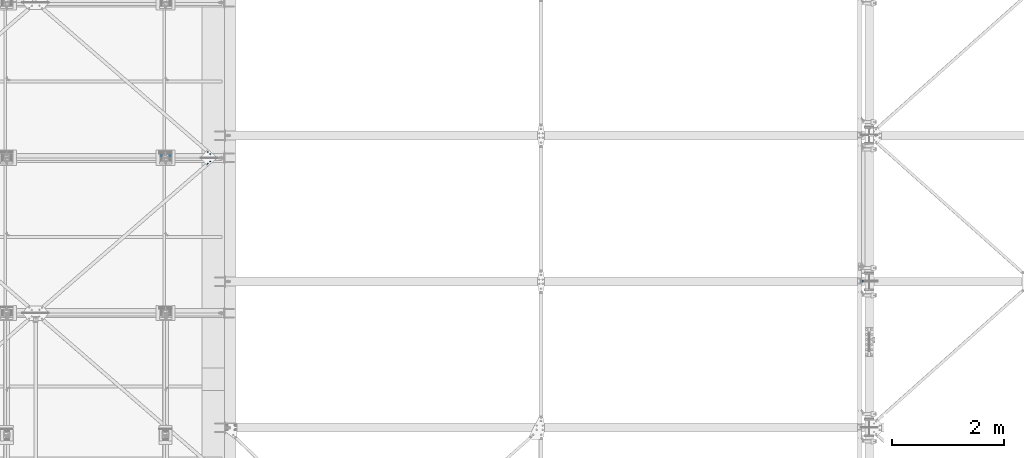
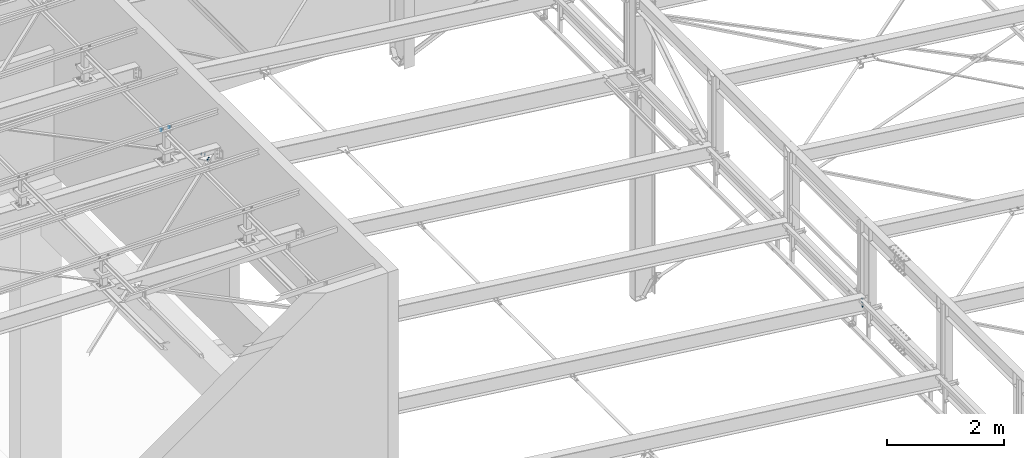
# One storey, part 274 of 3134: 4 mechanical fasteners, 3 elements without a shape of their own.
"""IFC2X3 building model written with IfcOpenShell, lengths in millimetres."""

from ifc_helpers import new_model, si_unit, frame, origin_with_axes, place, context, subcontext, project, spatial, faceted_brep, source, transform, mapped, material, type_object, element, aggregate, save


model = new_model("IFC2X3")

# Units and contexts
model_context = context("Model", 3, precision=1e-05, world=origin_with_axes())
body_context = subcontext(model_context, "Body", "Model", "MODEL_VIEW")
ifc_project = project(units=[si_unit("LENGTHUNIT", "METRE", prefix="MILLI"), si_unit("AREAUNIT", "SQUARE_METRE"), si_unit("VOLUMEUNIT", "CUBIC_METRE"), si_unit("MASSUNIT", "GRAM", prefix="KILO"), si_unit("TIMEUNIT", "SECOND"), si_unit("PLANEANGLEUNIT", "RADIAN"), si_unit("SOLIDANGLEUNIT", "STERADIAN"), si_unit("THERMODYNAMICTEMPERATUREUNIT", "DEGREE_CELSIUS"), si_unit("LUMINOUSINTENSITYUNIT", "LUMEN")], contexts=[model_context])

# Site, building, storey
site_placement = place(None, origin_with_axes())
site = spatial("IfcSite", under=ifc_project, at=site_placement, CompositionType="ELEMENT")
building_placement = place(site_placement, origin_with_axes())
building = spatial("IfcBuilding", under=site, at=building_placement, Name="Undefined", CompositionType="ELEMENT")
storey_placement = place(building_placement, origin_with_axes())
storey = spatial("IfcBuildingStorey", under=building, at=storey_placement, Name="Undefined", CompositionType="ELEMENT", Elevation=0.0)

# Assembly, mechanical fastener
assembly_1_placement = place(storey_placement, origin_with_axes())
assembly_1 = element("IfcElementAssembly", 1, at=assembly_1_placement, inside=storey, Name="IPE330", AssemblyPlace="NOTDEFINED", PredefinedType="RIGID_FRAME")
ifc_material = material(Name="8.8")
mechanical_fastener_type = type_object("IfcMechanicalFastenerType", Name="Bolt assembly")
shared_shape_1 = source(origin_with_axes(), body_context, "Body", "Brep", [
    faceted_brep([(13.856406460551, -13.75, 0.0), (6.92820323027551, -13.75, 12.0), (-6.92820323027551, -13.75, 12.0), (-13.856406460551, -13.75, 1.69692038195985e-15), (-6.92820323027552, -13.75, -12.0), (6.9282032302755, -13.75, -12.0), (6.9282032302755, -3.75, -12.0), (-6.92820323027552, -3.75, -12.0), (-13.856406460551, -3.75, 1.69692038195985e-15), (-6.92820323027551, -3.75, 12.0), (6.92820323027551, -3.75, 12.0), (13.856406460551, -3.75, 0.0), (8.0, -3.75, 0.0), (6.92820323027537, -3.75, 4.00000000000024), (3.99999999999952, -3.75, 6.92820323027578), (-8.29068785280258e-13, -3.75, 8.0), (-4.00000000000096, -3.75, 6.92820323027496), (-6.9282032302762, -3.75, 3.99999999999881), (-8.0, -3.75, -1.65813757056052e-12), (-6.92820323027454, -3.75, -4.00000000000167), (-3.99999999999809, -3.75, -6.92820323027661), (2.47832457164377e-12, -3.75, -8.0), (4.00000000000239, -3.75, -6.92820323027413), (6.92820323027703, -3.75, -3.99999999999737), (6.92820323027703, 31.25, -3.99999999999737), (4.00000000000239, 31.25, -6.92820323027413), (2.47832457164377e-12, 31.25, -8.0), (-3.99999999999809, 31.25, -6.92820323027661), (-6.92820323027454, 31.25, -4.00000000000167), (-8.0, 31.25, -1.65813757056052e-12), (-6.9282032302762, 31.25, 3.99999999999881), (-4.00000000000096, 31.25, 6.92820323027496), (-8.29068785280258e-13, 31.25, 8.0), (3.99999999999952, 31.25, 6.92820323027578), (6.92820323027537, 31.25, 4.00000000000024), (8.0, 31.25, 0.0), (13.856406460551, 13.0500000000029, 0.0), (6.92820323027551, 13.0500000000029, 12.0), (-6.92820323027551, 13.0500000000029, 12.0), (-13.856406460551, 13.0500000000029, 1.69692038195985e-15), (-6.92820323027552, 13.0500000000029, -12.0), (6.9282032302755, 13.0500000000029, -12.0), (6.9282032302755, 26.0500000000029, -12.0), (-6.92820323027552, 26.0500000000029, -12.0), (-13.856406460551, 26.0500000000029, 1.69692038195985e-15), (-6.92820323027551, 26.0500000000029, 12.0), (6.92820323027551, 26.0500000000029, 12.0), (13.856406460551, 26.0500000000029, 0.0)], [[[0, 1, 2, 3, 4, 5]], [[6, 7, 8, 9, 10, 11]], [[0, 11, 10, 1]], [[1, 10, 9, 2]], [[2, 9, 8, 3]], [[3, 8, 7, 4]], [[4, 7, 6, 5]], [[5, 6, 11, 0]], [[12, 13, 14, 15, 16, 17, 18, 19, 20, 21, 22, 23]], [[24, 25, 26, 27, 28, 29, 30, 31, 32, 33, 34, 35]], [[12, 35, 34, 13]], [[13, 34, 33, 14]], [[14, 33, 32, 15]], [[15, 32, 31, 16]], [[16, 31, 30, 17]], [[17, 30, 29, 18]], [[18, 29, 28, 19]], [[19, 28, 27, 20]], [[20, 27, 26, 21]], [[21, 26, 25, 22]], [[22, 25, 24, 23]], [[23, 24, 35, 12]], [[36, 37, 38, 39, 40, 41]], [[42, 43, 44, 45, 46, 47]], [[36, 47, 46, 37]], [[37, 46, 45, 38]], [[38, 45, 44, 39]], [[39, 44, 43, 40]], [[40, 43, 42, 41]], [[41, 42, 47, 36]]]),
    faceted_brep([(9.0, 2.95000000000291, 0.0), (7.79422863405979, 2.95000000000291, 4.50000000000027), (4.49999999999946, 2.95000000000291, 7.79422863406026), (-9.3270238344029e-13, 2.95000000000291, 9.0), (-4.50000000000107, 2.95000000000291, 7.79422863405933), (-7.79422863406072, 2.95000000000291, 4.49999999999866), (-9.0, 2.95000000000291, -1.86540476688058e-12), (-7.79422863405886, 2.95000000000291, -4.50000000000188), (-4.49999999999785, 2.95000000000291, -7.79422863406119), (2.78811514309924e-12, 2.95000000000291, -9.0), (4.50000000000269, 2.95000000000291, -7.7942286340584), (7.79422863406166, 2.95000000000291, -4.49999999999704), (7.79422863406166, 13.0500000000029, -4.49999999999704), (4.50000000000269, 13.0500000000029, -7.7942286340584), (2.78811514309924e-12, 13.0500000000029, -9.0), (-4.49999999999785, 13.0500000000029, -7.79422863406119), (-7.79422863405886, 13.0500000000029, -4.50000000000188), (-9.0, 13.0500000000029, -1.86540476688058e-12), (-7.79422863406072, 13.0500000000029, 4.49999999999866), (-4.50000000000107, 13.0500000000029, 7.79422863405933), (-9.3270238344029e-13, 13.0500000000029, 9.0), (4.49999999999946, 13.0500000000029, 7.79422863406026), (7.79422863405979, 13.0500000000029, 4.50000000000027), (9.0, 13.0500000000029, 0.0), (9.0, -3.65, 0.0), (7.79422863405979, -3.65, 4.50000000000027), (4.49999999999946, -3.65, 7.79422863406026), (-9.3270238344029e-13, -3.65, 9.0), (-4.50000000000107, -3.65, 7.79422863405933), (-7.79422863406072, -3.65, 4.49999999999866), (-9.0, -3.65, -1.86540476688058e-12), (-7.79422863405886, -3.65, -4.50000000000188), (-4.49999999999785, -3.65, -7.79422863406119), (2.78811514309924e-12, -3.65, -9.0), (4.50000000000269, -3.65, -7.7942286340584), (7.79422863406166, -3.65, -4.49999999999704), (7.79422863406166, 3.85, -4.49999999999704), (4.50000000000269, 3.85, -7.7942286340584), (2.78811514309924e-12, 3.85, -9.0), (-4.49999999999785, 3.85, -7.79422863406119), (-7.79422863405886, 3.85, -4.50000000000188), (-9.0, 3.85, -1.86540476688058e-12), (-7.79422863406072, 3.85, 4.49999999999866), (-4.50000000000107, 3.85, 7.79422863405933), (-9.3270238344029e-13, 3.85, 9.0), (4.49999999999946, 3.85, 7.79422863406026), (7.79422863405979, 3.85, 4.50000000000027), (9.0, 3.85, 0.0)], [[[0, 1, 2, 3, 4, 5, 6, 7, 8, 9, 10, 11]], [[12, 13, 14, 15, 16, 17, 18, 19, 20, 21, 22, 23]], [[0, 23, 22, 1]], [[1, 22, 21, 2]], [[2, 21, 20, 3]], [[3, 20, 19, 4]], [[4, 19, 18, 5]], [[5, 18, 17, 6]], [[6, 17, 16, 7]], [[7, 16, 15, 8]], [[8, 15, 14, 9]], [[9, 14, 13, 10]], [[10, 13, 12, 11]], [[11, 12, 23, 0]], [[24, 25, 26, 27, 28, 29, 30, 31, 32, 33, 34, 35]], [[36, 37, 38, 39, 40, 41, 42, 43, 44, 45, 46, 47]], [[24, 47, 46, 25]], [[25, 46, 45, 26]], [[26, 45, 44, 27]], [[27, 44, 43, 28]], [[28, 43, 42, 29]], [[29, 42, 41, 30]], [[30, 41, 40, 31]], [[31, 40, 39, 32]], [[32, 39, 38, 33]], [[33, 38, 37, 34]], [[34, 37, 36, 35]], [[35, 36, 47, 24]]]),
])
mechanical_fastener_1_placement = place(assembly_1_placement, frame((44085.0, 53250.0, 4337.44269270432), z_axis=(1.0, 0.0, 0.0), x_axis=(0.0, 0.0, -1.0)))
mechanical_fastener_1 = element("IfcMechanicalFastener", 2, at=mechanical_fastener_1_placement, type_object=mechanical_fastener_type, material=ifc_material, Name="Bolt assembly", NominalDiameter=16.0, NominalLength=35.0, context=body_context, shape_type="MappedRepresentation", body=[
    mapped(shared_shape_1, transform((0.0, 0.0, 0.0))),
    mapped(shared_shape_1, transform((80.0, 0.0, 0.0))),
    mapped(shared_shape_1, transform((160.0, 0.0, 0.0))),
])
aggregate(assembly_1, [mechanical_fastener_1])

assembly_2_placement = place(storey_placement, origin_with_axes())
assembly_2 = element("IfcElementAssembly", 3, at=assembly_2_placement, inside=storey, AssemblyPlace="NOTDEFINED", PredefinedType="RIGID_FRAME")
shared_shape_2 = source(origin_with_axes(), body_context, "Body", "Brep", [
    faceted_brep([(10.9696551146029, -14.0, 0.0), (5.48482755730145, -14.0, 9.5), (-5.48482755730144, -14.0, 9.5), (-10.9696551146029, -14.0, 1.34339530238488e-15), (-5.48482755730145, -14.0, -9.5), (5.48482755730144, -14.0, -9.50000000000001), (5.48482755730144, -6.0, -9.50000000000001), (-5.48482755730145, -6.0, -9.5), (-10.9696551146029, -6.0, 1.34339530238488e-15), (-5.48482755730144, -6.0, 9.5), (5.48482755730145, -6.0, 9.5), (10.9696551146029, -6.0, 0.0), (6.0, -6.0, 0.0), (5.19615242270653, -6.0, 3.00000000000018), (2.99999999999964, -6.0, 5.19615242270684), (-6.21801588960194e-13, -6.0, 6.0), (-3.00000000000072, -6.0, 5.19615242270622), (-5.19615242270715, -6.0, 2.9999999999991), (-6.0, -6.0, -1.24360317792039e-12), (-5.19615242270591, -6.0, -3.00000000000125), (-2.99999999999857, -6.0, -5.19615242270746), (1.85874342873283e-12, -6.0, -6.0), (3.00000000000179, -6.0, -5.1961524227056), (5.19615242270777, -6.0, -2.99999999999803), (5.19615242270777, 24.0, -2.99999999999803), (3.00000000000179, 24.0, -5.1961524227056), (1.85874342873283e-12, 24.0, -6.0), (-2.99999999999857, 24.0, -5.19615242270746), (-5.19615242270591, 24.0, -3.00000000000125), (-6.0, 24.0, -1.24360317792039e-12), (-5.19615242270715, 24.0, 2.9999999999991), (-3.00000000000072, 24.0, 5.19615242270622), (-6.21801588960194e-13, 24.0, 6.0), (2.99999999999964, 24.0, 5.19615242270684), (5.19615242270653, 24.0, 3.00000000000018), (6.0, 24.0, 0.0), (10.9696551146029, 6.00000000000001, 0.0), (5.48482755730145, 6.00000000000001, 9.5), (-5.48482755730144, 6.00000000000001, 9.5), (-10.9696551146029, 6.00000000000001, 1.34339530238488e-15), (-5.48482755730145, 6.00000000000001, -9.5), (5.48482755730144, 6.00000000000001, -9.50000000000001), (5.48482755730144, 16.0, -9.50000000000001), (-5.48482755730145, 16.0, -9.5), (-10.9696551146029, 16.0, 1.34339530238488e-15), (-5.48482755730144, 16.0, 9.5), (5.48482755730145, 16.0, 9.5), (10.9696551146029, 16.0, 0.0)], [[[0, 1, 2, 3, 4, 5]], [[6, 7, 8, 9, 10, 11]], [[0, 11, 10, 1]], [[1, 10, 9, 2]], [[2, 9, 8, 3]], [[3, 8, 7, 4]], [[4, 7, 6, 5]], [[5, 6, 11, 0]], [[12, 13, 14, 15, 16, 17, 18, 19, 20, 21, 22, 23]], [[24, 25, 26, 27, 28, 29, 30, 31, 32, 33, 34, 35]], [[12, 35, 34, 13]], [[13, 34, 33, 14]], [[14, 33, 32, 15]], [[15, 32, 31, 16]], [[16, 31, 30, 17]], [[17, 30, 29, 18]], [[18, 29, 28, 19]], [[19, 28, 27, 20]], [[20, 27, 26, 21]], [[21, 26, 25, 22]], [[22, 25, 24, 23]], [[23, 24, 35, 12]], [[36, 37, 38, 39, 40, 41]], [[42, 43, 44, 45, 46, 47]], [[36, 47, 46, 37]], [[37, 46, 45, 38]], [[38, 45, 44, 39]], [[39, 44, 43, 40]], [[40, 43, 42, 41]], [[41, 42, 47, 36]]]),
    faceted_brep([(7.0, -0.1, 0.0), (6.06217782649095, -0.1, 3.50000000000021), (3.49999999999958, -0.1, 6.06217782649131), (-7.25435187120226e-13, -0.1, 7.0), (-3.50000000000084, -0.1, 6.06217782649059), (-6.06217782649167, -0.1, 3.49999999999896), (-7.0, -0.1, -1.45087037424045e-12), (-6.06217782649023, -0.1, -3.50000000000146), (-3.49999999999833, -0.1, -6.06217782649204), (2.1685340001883e-12, -0.1, -7.0), (3.50000000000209, -0.1, -6.06217782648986), (6.0621778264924, -0.1, -3.4999999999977), (6.0621778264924, 6.00000000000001, -3.4999999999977), (3.50000000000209, 6.00000000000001, -6.06217782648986), (2.1685340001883e-12, 6.00000000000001, -7.0), (-3.49999999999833, 6.00000000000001, -6.06217782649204), (-6.06217782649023, 6.00000000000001, -3.50000000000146), (-7.0, 6.00000000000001, -1.45087037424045e-12), (-6.06217782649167, 6.00000000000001, 3.49999999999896), (-3.50000000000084, 6.00000000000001, 6.06217782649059), (-7.25435187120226e-13, 6.00000000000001, 7.0), (3.49999999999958, 6.00000000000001, 6.06217782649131), (6.06217782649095, 6.00000000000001, 3.50000000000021), (7.0, 6.00000000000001, 0.0), (7.0, -5.9, 0.0), (6.06217782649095, -5.9, 3.50000000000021), (3.49999999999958, -5.9, 6.06217782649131), (-7.25435187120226e-13, -5.9, 7.0), (-3.50000000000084, -5.9, 6.06217782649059), (-6.06217782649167, -5.9, 3.49999999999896), (-7.0, -5.9, -1.45087037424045e-12), (-6.06217782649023, -5.9, -3.50000000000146), (-3.49999999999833, -5.9, -6.06217782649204), (2.1685340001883e-12, -5.9, -7.0), (3.50000000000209, -5.9, -6.06217782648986), (6.0621778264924, -5.9, -3.4999999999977), (6.0621778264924, 0.0999999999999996, -3.4999999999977), (3.50000000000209, 0.0999999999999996, -6.06217782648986), (2.1685340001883e-12, 0.0999999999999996, -7.0), (-3.49999999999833, 0.0999999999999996, -6.06217782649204), (-6.06217782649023, 0.0999999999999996, -3.50000000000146), (-7.0, 0.0999999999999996, -1.45087037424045e-12), (-6.06217782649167, 0.0999999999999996, 3.49999999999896), (-3.50000000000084, 0.0999999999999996, 6.06217782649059), (-7.25435187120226e-13, 0.0999999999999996, 7.0), (3.49999999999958, 0.0999999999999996, 6.06217782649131), (6.06217782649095, 0.0999999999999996, 3.50000000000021), (7.0, 0.0999999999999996, 0.0)], [[[0, 1, 2, 3, 4, 5, 6, 7, 8, 9, 10, 11]], [[12, 13, 14, 15, 16, 17, 18, 19, 20, 21, 22, 23]], [[0, 23, 22, 1]], [[1, 22, 21, 2]], [[2, 21, 20, 3]], [[3, 20, 19, 4]], [[4, 19, 18, 5]], [[5, 18, 17, 6]], [[6, 17, 16, 7]], [[7, 16, 15, 8]], [[8, 15, 14, 9]], [[9, 14, 13, 10]], [[10, 13, 12, 11]], [[11, 12, 23, 0]], [[24, 25, 26, 27, 28, 29, 30, 31, 32, 33, 34, 35]], [[36, 37, 38, 39, 40, 41, 42, 43, 44, 45, 46, 47]], [[24, 47, 46, 25]], [[25, 46, 45, 26]], [[26, 45, 44, 27]], [[27, 44, 43, 28]], [[28, 43, 42, 29]], [[29, 42, 41, 30]], [[30, 41, 40, 31]], [[31, 40, 39, 32]], [[32, 39, 38, 33]], [[33, 38, 37, 34]], [[34, 37, 36, 35]], [[35, 36, 47, 24]]]),
])
mechanical_fastener_2_placement = place(assembly_2_placement, frame((31675.0, 55490.0, 10865.0), z_axis=(1.0, 0.0, 0.0), x_axis=(0.0, -1.0, 0.0)))
mechanical_fastener_2 = element("IfcMechanicalFastener", 4, at=mechanical_fastener_2_placement, type_object=mechanical_fastener_type, material=ifc_material, Name="Bolt assembly", NominalDiameter=12.0, NominalLength=30.0, context=body_context, shape_type="MappedRepresentation", body=[
    mapped(shared_shape_2, transform((0.0, -5.32963895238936e-10, -79.9999999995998))),
    mapped(shared_shape_2, transform((0.0, 5.3114490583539e-10, 79.9999999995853))),
])
aggregate(assembly_2, [mechanical_fastener_2])

# Assembly, mechanical fasteners
assembly_3_placement = place(storey_placement, origin_with_axes())
assembly_3 = element("IfcElementAssembly", 5, at=assembly_3_placement, inside=storey, Name="IPE330", AssemblyPlace="NOTDEFINED", PredefinedType="RIGID_FRAME")
shared_shape_3 = source(origin_with_axes(), body_context, "Body", "Brep", [
    faceted_brep([(13.856406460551, -14.0, 0.0), (6.92820323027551, -14.0, 12.0), (-6.92820323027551, -14.0, 12.0), (-13.856406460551, -14.0, 1.69692038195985e-15), (-6.92820323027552, -14.0, -12.0), (6.9282032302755, -14.0, -12.0), (6.9282032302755, -4.00000145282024, -12.0), (-6.92820323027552, -4.00000145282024, -12.0), (-13.856406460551, -4.00000145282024, 1.69692038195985e-15), (-6.92820323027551, -4.00000145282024, 12.0), (6.92820323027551, -4.00000145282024, 12.0), (13.856406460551, -4.00000145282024, 0.0), (8.0, -4.00000145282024, 0.0), (6.92820323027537, -4.00000145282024, 4.00000000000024), (3.99999999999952, -4.00000145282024, 6.92820323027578), (-8.29068785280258e-13, -4.00000145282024, 8.0), (-4.00000000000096, -4.00000145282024, 6.92820323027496), (-6.9282032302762, -4.00000145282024, 3.99999999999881), (-8.0, -4.00000145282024, -1.65813757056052e-12), (-6.92820323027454, -4.00000145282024, -4.00000000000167), (-3.99999999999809, -4.00000145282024, -6.92820323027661), (2.47832457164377e-12, -4.00000145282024, -8.0), (4.00000000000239, -4.00000145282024, -6.92820323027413), (6.92820323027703, -4.00000145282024, -3.99999999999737), (6.92820323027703, 31.0, -3.99999999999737), (4.00000000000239, 31.0, -6.92820323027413), (2.47832457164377e-12, 31.0, -8.0), (-3.99999999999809, 31.0, -6.92820323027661), (-6.92820323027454, 31.0, -4.00000000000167), (-8.0, 31.0, -1.65813757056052e-12), (-6.9282032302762, 31.0, 3.99999999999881), (-4.00000000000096, 31.0, 6.92820323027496), (-8.29068785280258e-13, 31.0, 8.0), (3.99999999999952, 31.0, 6.92820323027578), (6.92820323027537, 31.0, 4.00000000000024), (8.0, 31.0, 0.0), (13.856406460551, 9.99999995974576, 0.0), (6.92820323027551, 9.99999995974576, 12.0), (-6.92820323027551, 9.99999995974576, 12.0), (-13.856406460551, 9.99999995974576, 1.69692038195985e-15), (-6.92820323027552, 9.99999995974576, -12.0), (6.9282032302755, 9.99999995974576, -12.0), (6.9282032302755, 22.9999913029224, -12.0), (-6.92820323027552, 22.9999913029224, -12.0), (-13.856406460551, 22.9999913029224, 1.69692038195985e-15), (-6.92820323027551, 22.9999913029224, 12.0), (6.92820323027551, 22.9999913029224, 12.0), (13.856406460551, 22.9999913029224, 0.0)], [[[0, 1, 2, 3, 4, 5]], [[6, 7, 8, 9, 10, 11]], [[0, 11, 10, 1]], [[1, 10, 9, 2]], [[2, 9, 8, 3]], [[3, 8, 7, 4]], [[4, 7, 6, 5]], [[5, 6, 11, 0]], [[12, 13, 14, 15, 16, 17, 18, 19, 20, 21, 22, 23]], [[24, 25, 26, 27, 28, 29, 30, 31, 32, 33, 34, 35]], [[12, 35, 34, 13]], [[13, 34, 33, 14]], [[14, 33, 32, 15]], [[15, 32, 31, 16]], [[16, 31, 30, 17]], [[17, 30, 29, 18]], [[18, 29, 28, 19]], [[19, 28, 27, 20]], [[20, 27, 26, 21]], [[21, 26, 25, 22]], [[22, 25, 24, 23]], [[23, 24, 35, 12]], [[36, 37, 38, 39, 40, 41]], [[42, 43, 44, 45, 46, 47]], [[36, 47, 46, 37]], [[37, 46, 45, 38]], [[38, 45, 44, 39]], [[39, 44, 43, 40]], [[40, 43, 42, 41]], [[41, 42, 47, 36]]]),
    faceted_brep([(9.0, 3.9, 0.0), (7.79422863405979, 3.9, 4.50000000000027), (4.49999999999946, 3.9, 7.79422863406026), (-9.3270238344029e-13, 3.9, 9.0), (-4.50000000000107, 3.9, 7.79422863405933), (-7.79422863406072, 3.9, 4.49999999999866), (-9.0, 3.9, -1.86540476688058e-12), (-7.79422863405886, 3.9, -4.50000000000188), (-4.49999999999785, 3.9, -7.79422863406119), (2.78811514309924e-12, 3.9, -9.0), (4.50000000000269, 3.9, -7.7942286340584), (7.79422863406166, 3.9, -4.49999999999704), (7.79422863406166, 9.99999995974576, -4.49999999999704), (4.50000000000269, 9.99999995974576, -7.7942286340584), (2.78811514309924e-12, 9.99999995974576, -9.0), (-4.49999999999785, 9.99999995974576, -7.79422863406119), (-7.79422863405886, 9.99999995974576, -4.50000000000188), (-9.0, 9.99999995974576, -1.86540476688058e-12), (-7.79422863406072, 9.99999995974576, 4.49999999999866), (-4.50000000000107, 9.99999995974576, 7.79422863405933), (-9.3270238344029e-13, 9.99999995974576, 9.0), (4.49999999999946, 9.99999995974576, 7.79422863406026), (7.79422863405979, 9.99999995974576, 4.50000000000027), (9.0, 9.99999995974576, 0.0), (9.0, -3.9, 0.0), (7.79422863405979, -3.9, 4.50000000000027), (4.49999999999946, -3.9, 7.79422863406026), (-9.3270238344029e-13, -3.9, 9.0), (-4.50000000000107, -3.9, 7.79422863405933), (-7.79422863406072, -3.9, 4.49999999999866), (-9.0, -3.9, -1.86540476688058e-12), (-7.79422863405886, -3.9, -4.50000000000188), (-4.49999999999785, -3.9, -7.79422863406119), (2.78811514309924e-12, -3.9, -9.0), (4.50000000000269, -3.9, -7.7942286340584), (7.79422863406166, -3.9, -4.49999999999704), (7.79422863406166, 4.09999854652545, -4.49999999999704), (4.50000000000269, 4.09999854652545, -7.7942286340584), (2.78811514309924e-12, 4.09999854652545, -9.0), (-4.49999999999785, 4.09999854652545, -7.79422863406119), (-7.79422863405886, 4.09999854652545, -4.50000000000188), (-9.0, 4.09999854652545, -1.86540476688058e-12), (-7.79422863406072, 4.09999854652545, 4.49999999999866), (-4.50000000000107, 4.09999854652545, 7.79422863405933), (-9.3270238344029e-13, 4.09999854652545, 9.0), (4.49999999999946, 4.09999854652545, 7.79422863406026), (7.79422863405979, 4.09999854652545, 4.50000000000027), (9.0, 4.09999854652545, 0.0)], [[[0, 1, 2, 3, 4, 5, 6, 7, 8, 9, 10, 11]], [[12, 13, 14, 15, 16, 17, 18, 19, 20, 21, 22, 23]], [[0, 23, 22, 1]], [[1, 22, 21, 2]], [[2, 21, 20, 3]], [[3, 20, 19, 4]], [[4, 19, 18, 5]], [[5, 18, 17, 6]], [[6, 17, 16, 7]], [[7, 16, 15, 8]], [[8, 15, 14, 9]], [[9, 14, 13, 10]], [[10, 13, 12, 11]], [[11, 12, 23, 0]], [[24, 25, 26, 27, 28, 29, 30, 31, 32, 33, 34, 35]], [[36, 37, 38, 39, 40, 41, 42, 43, 44, 45, 46, 47]], [[24, 47, 46, 25]], [[25, 46, 45, 26]], [[26, 45, 44, 27]], [[27, 44, 43, 28]], [[28, 43, 42, 29]], [[29, 42, 41, 30]], [[30, 41, 40, 31]], [[31, 40, 39, 32]], [[32, 39, 38, 33]], [[33, 38, 37, 34]], [[34, 37, 36, 35]], [[35, 36, 47, 24]]]),
])
mechanical_fastener_3_placement = place(assembly_3_placement, frame((32424.2213762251, 55350.1149029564, 10033.8822758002), z_axis=(-0.655215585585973, 0.755168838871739, 0.0203116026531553), x_axis=(0.754806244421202, 0.655530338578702, -0.0233989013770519)))
mechanical_fastener_3 = element("IfcMechanicalFastener", 6, at=mechanical_fastener_3_placement, type_object=mechanical_fastener_type, material=ifc_material, Name="Bolt assembly", NominalDiameter=16.0, NominalLength=35.0, context=body_context, shape_type="MappedRepresentation", body=[
    mapped(shared_shape_3, transform((0.0, 0.0, 0.0))),
    mapped(shared_shape_3, transform((59.9999999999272, 0.0, 5.40239852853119e-10))),
])
shared_shape_4 = source(origin_with_axes(), body_context, "Body", "Brep", [
    faceted_brep([(13.856406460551, -14.0, 0.0), (6.92820323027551, -14.0, 12.0), (-6.92820323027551, -14.0, 12.0), (-13.856406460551, -14.0, 1.69692038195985e-15), (-6.92820323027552, -14.0, -12.0), (6.9282032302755, -14.0, -12.0), (6.9282032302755, -4.00000145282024, -12.0), (-6.92820323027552, -4.00000145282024, -12.0), (-13.856406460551, -4.00000145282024, 1.69692038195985e-15), (-6.92820323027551, -4.00000145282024, 12.0), (6.92820323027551, -4.00000145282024, 12.0), (13.856406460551, -4.00000145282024, 0.0), (8.0, -4.00000145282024, 0.0), (6.92820323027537, -4.00000145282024, 4.00000000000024), (3.99999999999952, -4.00000145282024, 6.92820323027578), (-8.29068785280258e-13, -4.00000145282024, 8.0), (-4.00000000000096, -4.00000145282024, 6.92820323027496), (-6.9282032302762, -4.00000145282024, 3.99999999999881), (-8.0, -4.00000145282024, -1.65813757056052e-12), (-6.92820323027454, -4.00000145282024, -4.00000000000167), (-3.99999999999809, -4.00000145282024, -6.92820323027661), (2.47832457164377e-12, -4.00000145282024, -8.0), (4.00000000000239, -4.00000145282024, -6.92820323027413), (6.92820323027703, -4.00000145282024, -3.99999999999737), (6.92820323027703, 31.0, -3.99999999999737), (4.00000000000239, 31.0, -6.92820323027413), (2.47832457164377e-12, 31.0, -8.0), (-3.99999999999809, 31.0, -6.92820323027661), (-6.92820323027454, 31.0, -4.00000000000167), (-8.0, 31.0, -1.65813757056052e-12), (-6.9282032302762, 31.0, 3.99999999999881), (-4.00000000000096, 31.0, 6.92820323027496), (-8.29068785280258e-13, 31.0, 8.0), (3.99999999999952, 31.0, 6.92820323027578), (6.92820323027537, 31.0, 4.00000000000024), (8.0, 31.0, 0.0), (13.856406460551, 9.99990751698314, 0.0), (6.92820323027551, 9.99990751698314, 12.0), (-6.92820323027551, 9.99990751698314, 12.0), (-13.856406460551, 9.99990751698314, 1.69692038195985e-15), (-6.92820323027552, 9.99990751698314, -12.0), (6.9282032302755, 9.99990751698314, -12.0), (6.9282032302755, 22.9999075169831, -12.0), (-6.92820323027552, 22.9999075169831, -12.0), (-13.856406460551, 22.9999075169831, 1.69692038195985e-15), (-6.92820323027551, 22.9999075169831, 12.0), (6.92820323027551, 22.9999075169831, 12.0), (13.856406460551, 22.9999075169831, 0.0)], [[[0, 1, 2, 3, 4, 5]], [[6, 7, 8, 9, 10, 11]], [[0, 11, 10, 1]], [[1, 10, 9, 2]], [[2, 9, 8, 3]], [[3, 8, 7, 4]], [[4, 7, 6, 5]], [[5, 6, 11, 0]], [[12, 13, 14, 15, 16, 17, 18, 19, 20, 21, 22, 23]], [[24, 25, 26, 27, 28, 29, 30, 31, 32, 33, 34, 35]], [[12, 35, 34, 13]], [[13, 34, 33, 14]], [[14, 33, 32, 15]], [[15, 32, 31, 16]], [[16, 31, 30, 17]], [[17, 30, 29, 18]], [[18, 29, 28, 19]], [[19, 28, 27, 20]], [[20, 27, 26, 21]], [[21, 26, 25, 22]], [[22, 25, 24, 23]], [[23, 24, 35, 12]], [[36, 37, 38, 39, 40, 41]], [[42, 43, 44, 45, 46, 47]], [[36, 47, 46, 37]], [[37, 46, 45, 38]], [[38, 45, 44, 39]], [[39, 44, 43, 40]], [[40, 43, 42, 41]], [[41, 42, 47, 36]]]),
    faceted_brep([(9.0, 3.89990751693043, 0.0), (7.79422863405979, 3.89990751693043, 4.50000000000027), (4.49999999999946, 3.89990751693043, 7.79422863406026), (-9.3270238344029e-13, 3.89990751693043, 9.0), (-4.50000000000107, 3.89990751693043, 7.79422863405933), (-7.79422863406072, 3.89990751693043, 4.49999999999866), (-9.0, 3.89990751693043, -1.86540476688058e-12), (-7.79422863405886, 3.89990751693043, -4.50000000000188), (-4.49999999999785, 3.89990751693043, -7.79422863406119), (2.78811514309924e-12, 3.89990751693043, -9.0), (4.50000000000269, 3.89990751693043, -7.7942286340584), (7.79422863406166, 3.89990751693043, -4.49999999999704), (7.79422863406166, 9.99990751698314, -4.49999999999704), (4.50000000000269, 9.99990751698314, -7.7942286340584), (2.78811514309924e-12, 9.99990751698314, -9.0), (-4.49999999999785, 9.99990751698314, -7.79422863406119), (-7.79422863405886, 9.99990751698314, -4.50000000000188), (-9.0, 9.99990751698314, -1.86540476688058e-12), (-7.79422863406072, 9.99990751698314, 4.49999999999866), (-4.50000000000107, 9.99990751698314, 7.79422863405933), (-9.3270238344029e-13, 9.99990751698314, 9.0), (4.49999999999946, 9.99990751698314, 7.79422863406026), (7.79422863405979, 9.99990751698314, 4.50000000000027), (9.0, 9.99990751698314, 0.0), (9.0, -3.9, 0.0), (7.79422863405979, -3.9, 4.50000000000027), (4.49999999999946, -3.9, 7.79422863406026), (-9.3270238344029e-13, -3.9, 9.0), (-4.50000000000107, -3.9, 7.79422863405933), (-7.79422863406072, -3.9, 4.49999999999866), (-9.0, -3.9, -1.86540476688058e-12), (-7.79422863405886, -3.9, -4.50000000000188), (-4.49999999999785, -3.9, -7.79422863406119), (2.78811514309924e-12, -3.9, -9.0), (4.50000000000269, -3.9, -7.7942286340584), (7.79422863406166, -3.9, -4.49999999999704), (7.79422863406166, 4.09999854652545, -4.49999999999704), (4.50000000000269, 4.09999854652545, -7.7942286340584), (2.78811514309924e-12, 4.09999854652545, -9.0), (-4.49999999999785, 4.09999854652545, -7.79422863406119), (-7.79422863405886, 4.09999854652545, -4.50000000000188), (-9.0, 4.09999854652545, -1.86540476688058e-12), (-7.79422863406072, 4.09999854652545, 4.49999999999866), (-4.50000000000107, 4.09999854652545, 7.79422863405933), (-9.3270238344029e-13, 4.09999854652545, 9.0), (4.49999999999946, 4.09999854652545, 7.79422863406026), (7.79422863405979, 4.09999854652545, 4.50000000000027), (9.0, 4.09999854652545, 0.0)], [[[0, 1, 2, 3, 4, 5, 6, 7, 8, 9, 10, 11]], [[12, 13, 14, 15, 16, 17, 18, 19, 20, 21, 22, 23]], [[0, 23, 22, 1]], [[1, 22, 21, 2]], [[2, 21, 20, 3]], [[3, 20, 19, 4]], [[4, 19, 18, 5]], [[5, 18, 17, 6]], [[6, 17, 16, 7]], [[7, 16, 15, 8]], [[8, 15, 14, 9]], [[9, 14, 13, 10]], [[10, 13, 12, 11]], [[11, 12, 23, 0]], [[24, 25, 26, 27, 28, 29, 30, 31, 32, 33, 34, 35]], [[36, 37, 38, 39, 40, 41, 42, 43, 44, 45, 46, 47]], [[24, 47, 46, 25]], [[25, 46, 45, 26]], [[26, 45, 44, 27]], [[27, 44, 43, 28]], [[28, 43, 42, 29]], [[29, 42, 41, 30]], [[30, 41, 40, 31]], [[31, 40, 39, 32]], [[32, 39, 38, 33]], [[33, 38, 37, 34]], [[34, 37, 36, 35]], [[35, 36, 47, 24]]]),
])
mechanical_fastener_4_placement = place(assembly_3_placement, frame((32424.2213762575, 55559.8850970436, 10033.8822757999), z_axis=(0.655215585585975, 0.755168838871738, -0.0203116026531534), x_axis=(0.754806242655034, -0.65553033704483, -0.0233990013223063)))
mechanical_fastener_4 = element("IfcMechanicalFastener", 7, at=mechanical_fastener_4_placement, type_object=mechanical_fastener_type, material=ifc_material, Name="Bolt assembly", NominalDiameter=16.0, NominalLength=35.0, context=body_context, shape_type="MappedRepresentation", body=[
    mapped(shared_shape_4, transform((0.0, 0.0, 0.0))),
    mapped(shared_shape_4, transform((59.9999999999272, 0.0, 5.40239852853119e-10))),
])
aggregate(assembly_3, [mechanical_fastener_3, mechanical_fastener_4])

save(model, "model.ifc")
